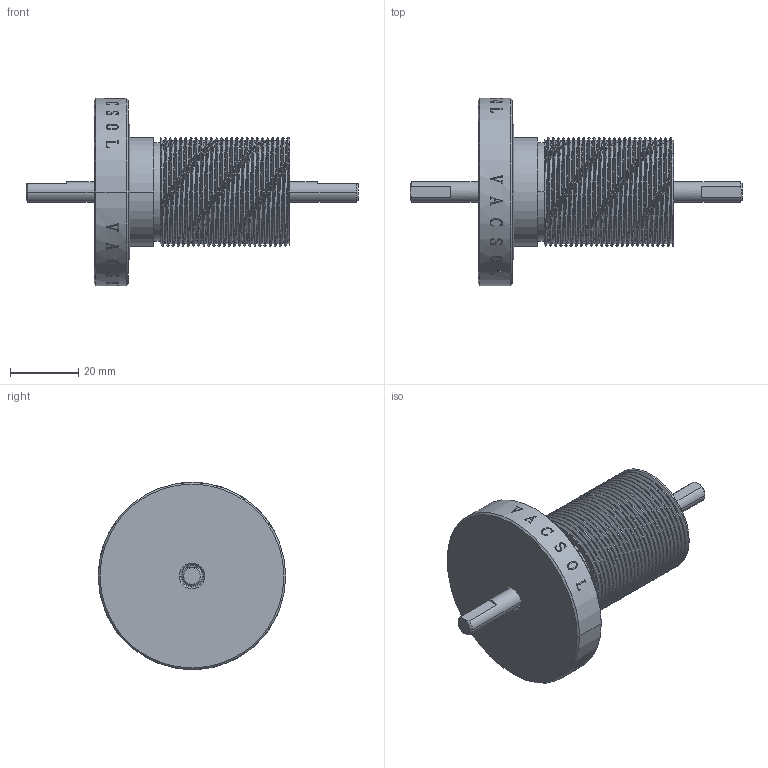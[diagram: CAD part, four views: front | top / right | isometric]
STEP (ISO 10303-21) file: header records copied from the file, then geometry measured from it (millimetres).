
FILE_DESCRIPTION (( 'STEP AP214' ), '1' );
FILE_NAME ('m6.STEP', '2010-08-26T12:53:14', ( 'user' ), ( '' ), 'SwSTEP 2.0', 'SolidWorks 2007', '' );
FILE_SCHEMA (( 'AUTOMOTIVE_DESIGN' ));
Length unit declared in the file: millimetre
Products named in the file (1): m6
Bounding box: 97.5 x 55 x 55 mm (x, y, z)
Volume: 60767.3 mm3; surface area: 16648.6 mm2
Topology: 2 solids, 2 shells, 431 faces, 1170 edges, 774 vertices
Faces by surface type: bspline 258, cylinder 94, plane 61, cone 14, torus 4
Entity records: 43270 total; most frequent: CARTESIAN_POINT 31404, ORIENTED_EDGE 2340, EDGE_CURVE 1170, B_SPLINE_CURVE_WITH_KNOTS 810, VERTEX_POINT 774, DIRECTION 721, EDGE_LOOP 464, FACE_OUTER_BOUND 431
